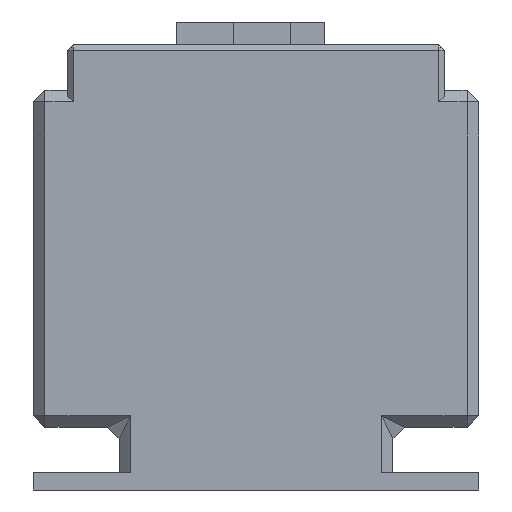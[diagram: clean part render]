
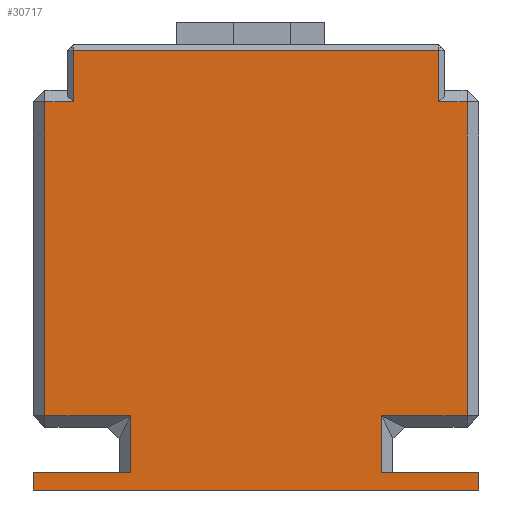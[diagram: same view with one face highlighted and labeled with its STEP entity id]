
A CAD part, left-side view. The second image highlights one B-rep face of the part: STEP entity #30717.
In plain terms, the highlighted planar face has unit normal (-1, 0, 0).
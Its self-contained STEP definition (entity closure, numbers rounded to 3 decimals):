
#3373=FACE_OUTER_BOUND('',#5249,.T.);
#5249=EDGE_LOOP('',(#25040,#25041,#25042,#25043,#25044,#25045,#25046,#25047,
#25048,#25049,#25050,#25051,#25052,#25053,#25054,#25055));
#7964=LINE('',#51116,#10946);
#7966=LINE('',#51119,#10948);
#7970=LINE('',#51129,#10952);
#7998=LINE('',#51187,#10980);
#8000=LINE('',#51190,#10982);
#8005=LINE('',#51198,#10987);
#8014=LINE('',#51214,#10996);
#8046=LINE('',#51281,#11028);
#8049=LINE('',#51286,#11031);
#8053=LINE('',#51292,#11035);
#8057=LINE('',#51300,#11039);
#8061=LINE('',#51308,#11043);
#8062=LINE('',#51310,#11044);
#8063=LINE('',#51312,#11045);
#8064=LINE('',#51314,#11046);
#8065=LINE('',#51315,#11047);
#10946=VECTOR('',#37194,10.);
#10948=VECTOR('',#37198,10.);
#10952=VECTOR('',#37208,10.);
#10980=VECTOR('',#37258,10.);
#10982=VECTOR('',#37262,10.);
#10987=VECTOR('',#37273,10.);
#10996=VECTOR('',#37288,10.);
#11028=VECTOR('',#37350,10.);
#11031=VECTOR('',#37357,10.);
#11035=VECTOR('',#37363,10.);
#11039=VECTOR('',#37371,10.);
#11043=VECTOR('',#37379,10.);
#11044=VECTOR('',#37380,10.);
#11045=VECTOR('',#37381,10.);
#11046=VECTOR('',#37382,10.);
#11047=VECTOR('',#37383,10.);
#13748=VERTEX_POINT('',#51100);
#13750=VERTEX_POINT('',#51109);
#13752=VERTEX_POINT('',#51114);
#13754=VERTEX_POINT('',#51125);
#13761=VERTEX_POINT('',#51142);
#13766=VERTEX_POINT('',#51155);
#13770=VERTEX_POINT('',#51166);
#13777=VERTEX_POINT('',#51210);
#13790=VERTEX_POINT('',#51256);
#13794=VERTEX_POINT('',#51264);
#13796=VERTEX_POINT('',#51273);
#13801=VERTEX_POINT('',#51298);
#13803=VERTEX_POINT('',#51307);
#13804=VERTEX_POINT('',#51309);
#13805=VERTEX_POINT('',#51311);
#13806=VERTEX_POINT('',#51313);
#17653=EDGE_CURVE('',#13752,#13750,#7964,.T.);
#17655=EDGE_CURVE('',#13750,#13748,#7966,.T.);
#17660=EDGE_CURVE('',#13748,#13754,#7970,.T.);
#17688=EDGE_CURVE('',#13754,#13770,#7998,.T.);
#17690=EDGE_CURVE('',#13770,#13766,#8000,.T.);
#17695=EDGE_CURVE('',#13766,#13761,#8005,.T.);
#17704=EDGE_CURVE('',#13761,#13777,#8014,.T.);
#17736=EDGE_CURVE('',#13796,#13794,#8046,.T.);
#17739=EDGE_CURVE('',#13790,#13796,#8049,.T.);
#17743=EDGE_CURVE('',#13794,#13752,#8053,.T.);
#17747=EDGE_CURVE('',#13801,#13790,#8057,.T.);
#17751=EDGE_CURVE('',#13801,#13803,#8061,.T.);
#17752=EDGE_CURVE('',#13804,#13803,#8062,.T.);
#17753=EDGE_CURVE('',#13804,#13805,#8063,.T.);
#17754=EDGE_CURVE('',#13805,#13806,#8064,.T.);
#17755=EDGE_CURVE('',#13806,#13777,#8065,.T.);
#25040=ORIENTED_EDGE('',*,*,#17743,.F.);
#25041=ORIENTED_EDGE('',*,*,#17736,.F.);
#25042=ORIENTED_EDGE('',*,*,#17739,.F.);
#25043=ORIENTED_EDGE('',*,*,#17747,.F.);
#25044=ORIENTED_EDGE('',*,*,#17751,.T.);
#25045=ORIENTED_EDGE('',*,*,#17752,.F.);
#25046=ORIENTED_EDGE('',*,*,#17753,.T.);
#25047=ORIENTED_EDGE('',*,*,#17754,.T.);
#25048=ORIENTED_EDGE('',*,*,#17755,.T.);
#25049=ORIENTED_EDGE('',*,*,#17704,.F.);
#25050=ORIENTED_EDGE('',*,*,#17695,.F.);
#25051=ORIENTED_EDGE('',*,*,#17690,.F.);
#25052=ORIENTED_EDGE('',*,*,#17688,.F.);
#25053=ORIENTED_EDGE('',*,*,#17660,.F.);
#25054=ORIENTED_EDGE('',*,*,#17655,.F.);
#25055=ORIENTED_EDGE('',*,*,#17653,.F.);
#29051=PLANE('',#32341);
#30717=ADVANCED_FACE('',(#3373),#29051,.T.);
#32341=AXIS2_PLACEMENT_3D('',#51306,#37377,#37378);
#37194=DIRECTION('',(0.,0.,1.));
#37198=DIRECTION('',(0.,-1.,0.));
#37208=DIRECTION('',(0.,0.,-1.));
#37258=DIRECTION('',(0.,-1.,0.));
#37262=DIRECTION('',(0.,0.,-1.));
#37273=DIRECTION('',(0.,1.,0.));
#37288=DIRECTION('',(0.,0.,-1.));
#37350=DIRECTION('',(0.,0.,1.));
#37357=DIRECTION('',(0.,1.,0.));
#37363=DIRECTION('',(0.,-1.,0.));
#37371=DIRECTION('',(0.,0.,1.));
#37377=DIRECTION('center_axis',(-1.,0.,0.));
#37378=DIRECTION('ref_axis',(0.,-1.,0.));
#37379=DIRECTION('',(0.,1.,0.));
#37380=DIRECTION('',(0.,0.,1.));
#37381=DIRECTION('',(0.,-1.,0.));
#37382=DIRECTION('',(0.,0.,1.));
#37383=DIRECTION('',(0.,1.,0.));
#51100=CARTESIAN_POINT('',(0.,7.,77.));
#51109=CARTESIAN_POINT('',(0.,71.,77.));
#51114=CARTESIAN_POINT('',(0.,71.,68.));
#51116=CARTESIAN_POINT('',(0.,71.,41.));
#51119=CARTESIAN_POINT('',(0.,58.5,77.));
#51125=CARTESIAN_POINT('',(0.,7.,68.));
#51129=CARTESIAN_POINT('',(0.,7.,41.));
#51142=CARTESIAN_POINT('',(0.,17.,13.));
#51155=CARTESIAN_POINT('',(0.,2.,13.));
#51166=CARTESIAN_POINT('',(0.,2.,68.));
#51187=CARTESIAN_POINT('',(0.,40.803,68.));
#51190=CARTESIAN_POINT('',(0.,2.,0.));
#51198=CARTESIAN_POINT('',(0.,39.,13.));
#51210=CARTESIAN_POINT('',(0.,17.,3.));
#51214=CARTESIAN_POINT('',(0.,17.,3.5));
#51256=CARTESIAN_POINT('',(0.,61.,13.));
#51264=CARTESIAN_POINT('',(0.,76.,68.));
#51273=CARTESIAN_POINT('',(0.,76.,13.));
#51281=CARTESIAN_POINT('',(0.,76.,0.));
#51286=CARTESIAN_POINT('',(0.,78.,13.));
#51292=CARTESIAN_POINT('',(0.,76.197,68.));
#51298=CARTESIAN_POINT('',(0.,61.,3.));
#51300=CARTESIAN_POINT('',(0.,61.,3.5));
#51306=CARTESIAN_POINT('Origin',(0.,78.,0.));
#51307=CARTESIAN_POINT('',(0.,78.,3.));
#51308=CARTESIAN_POINT('',(0.,78.,3.));
#51309=CARTESIAN_POINT('',(0.,78.,0.));
#51310=CARTESIAN_POINT('',(0.,78.,0.));
#51311=CARTESIAN_POINT('',(0.,0.,0.));
#51312=CARTESIAN_POINT('',(0.,78.,0.));
#51313=CARTESIAN_POINT('',(0.,0.,3.));
#51314=CARTESIAN_POINT('',(0.,0.,0.));
#51315=CARTESIAN_POINT('',(0.,39.,3.));
